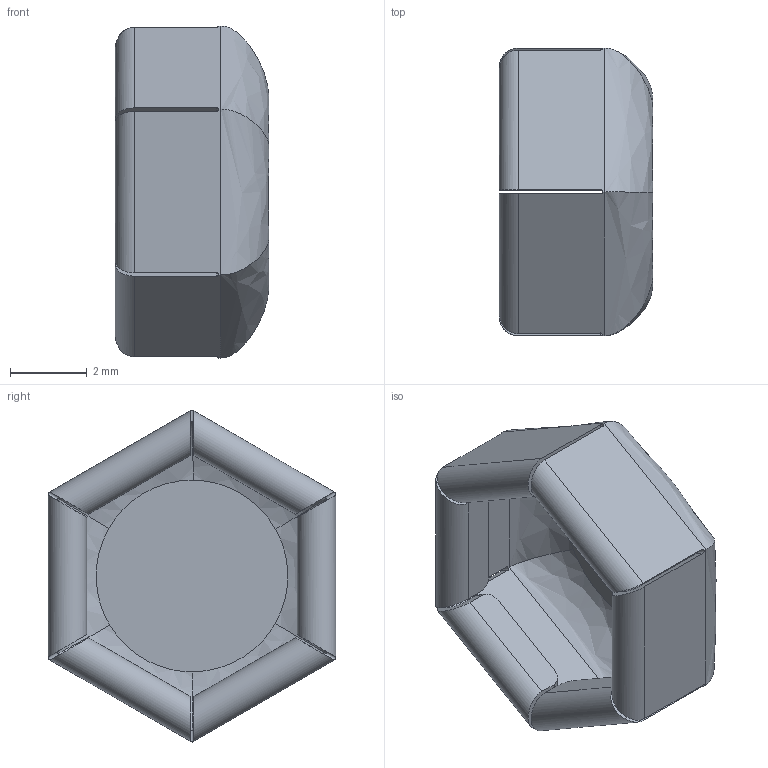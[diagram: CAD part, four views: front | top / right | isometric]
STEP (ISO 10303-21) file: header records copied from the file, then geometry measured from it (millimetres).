
FILE_DESCRIPTION(/* description */ ('STEP AP242 Edition 2','CAx-IF Rec.Pracs.---Representation and Presentation of Product Manufacturing Information (PMI)---4.0---2014-10-13','CAx-IF Rec.Pracs.---3D Tessellated Geometry---0.4---2014-09-14','2;1','CAx-IF Rec.Pracs.---User Defined Attributes---1.5---2016-08-15'),/* implementation_level */ '2;1');
FILE_NAME(/* name */ 'Assembly 1 - 9V_Battery (5)',/* time_stamp */ '2026-04-02T09:55:06Z',/* author */ (''),/* organization */ (''),/* preprocessor_version */ 'ST-DEVELOPER v20',/* originating_system */ 'ONSHAPE BY PTC INC, 1.212',/* authorisation */ ' ');
FILE_SCHEMA (('AP242_MANAGED_MODEL_BASED_3D_ENGINEERING_MIM_LF { 1 0 10303 442 3 1 4 }'));
Length unit declared in the file: metre
Products named in the file (1): 9V_Battery
Bounding box: 4 x 7.5 x 8.66 mm (x, y, z)
Volume: 38.3 mm3; surface area: 325.3 mm2
Topology: 1 solids, 1 shells, 86 faces, 240 edges, 156 vertices
Faces by surface type: plane 44, cylinder 30, bspline 12
Entity records: 3263 total; most frequent: CARTESIAN_POINT 1045, ORIENTED_EDGE 480, DIRECTION 440, EDGE_CURVE 240, VERTEX_POINT 156, AXIS2_PLACEMENT_3D 148, LINE 144, VECTOR 144
